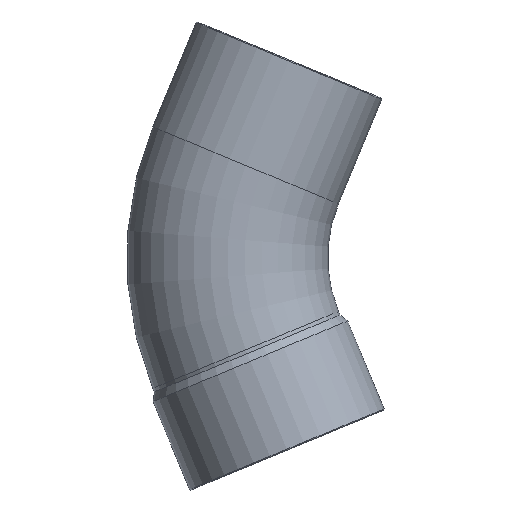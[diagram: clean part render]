
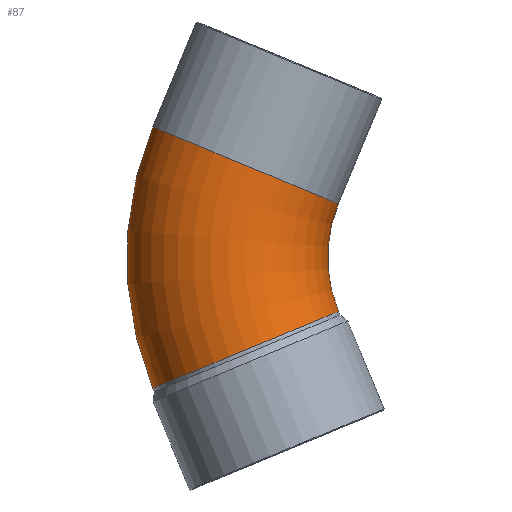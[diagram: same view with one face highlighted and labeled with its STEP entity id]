
A CAD part, front view. The second image highlights one B-rep face of the part: STEP entity #87.
In plain terms, the highlighted toroidal (fillet/blend) face has major radius 129.6 mm and minor radius 54 mm.
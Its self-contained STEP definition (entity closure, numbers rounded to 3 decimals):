
#44=CARTESIAN_POINT('',(4.435,0.,0.));
#45=DIRECTION('',(0.,1.0,0.));
#46=DIRECTION('',(-0.383,0.,0.924));
#47=AXIS2_PLACEMENT_3D('',#44,#45,#46);
#48=TOROIDAL_SURFACE('',#47,129.6,54.0);
#49=CARTESIAN_POINT('',(-165.189,0.,-70.261));
#50=VERTEX_POINT('',#49);
#51=CARTESIAN_POINT('',(-165.189,0.,70.261));
#52=VERTEX_POINT('',#51);
#53=CARTESIAN_POINT('',(4.435,0.,0.));
#54=DIRECTION('',(0.0,1.0,0.0));
#55=DIRECTION('',(0.0,0.0,1.0));
#56=AXIS2_PLACEMENT_3D('',#53,#54,#55);
#57=CIRCLE('',#56,183.6);
#58=EDGE_CURVE('',#50,#52,#57,.T.);
#59=ORIENTED_EDGE('',*,*,#58,.F.);
#60=CARTESIAN_POINT('',(-65.41,0.,-28.931));
#61=VERTEX_POINT('',#60);
#62=CARTESIAN_POINT('',(-115.3,0.,-49.596));
#63=DIRECTION('',(0.383,0.,-0.924));
#64=DIRECTION('',(-0.924,0.,-0.383));
#65=AXIS2_PLACEMENT_3D('',#62,#63,#64);
#66=CIRCLE('',#65,54.);
#67=EDGE_CURVE('',#61,#50,#66,.T.);
#68=ORIENTED_EDGE('',*,*,#67,.F.);
#69=CARTESIAN_POINT('',(-65.41,0.,28.931));
#70=VERTEX_POINT('',#69);
#71=CARTESIAN_POINT('',(4.435,0.,0.));
#72=DIRECTION('',(0.0,-1.0,0.0));
#73=DIRECTION('',(0.0,0.0,1.0));
#74=AXIS2_PLACEMENT_3D('',#71,#72,#73);
#75=CIRCLE('',#74,75.6);
#76=EDGE_CURVE('',#70,#61,#75,.T.);
#77=ORIENTED_EDGE('',*,*,#76,.F.);
#78=CARTESIAN_POINT('',(-115.3,0.,49.596));
#79=DIRECTION('',(-0.383,0.,-0.924));
#80=DIRECTION('',(-0.924,0.,0.383));
#81=AXIS2_PLACEMENT_3D('',#78,#79,#80);
#82=CIRCLE('',#81,54.);
#83=EDGE_CURVE('',#70,#52,#82,.T.);
#84=ORIENTED_EDGE('',*,*,#83,.T.);
#85=EDGE_LOOP('',(#59,#68,#77,#84));
#86=FACE_OUTER_BOUND('',#85,.T.);
#87=ADVANCED_FACE('',(#86),#48,.T.);
